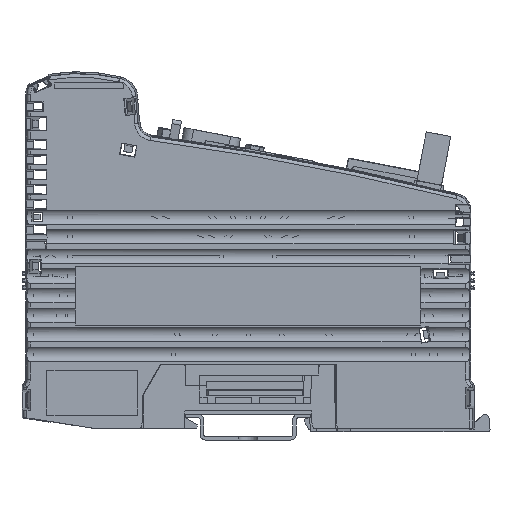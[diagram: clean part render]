
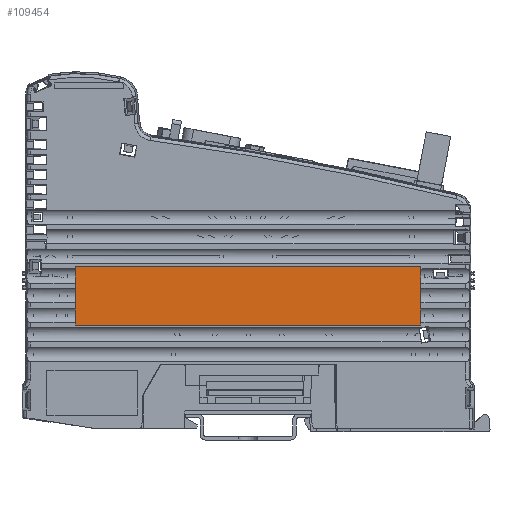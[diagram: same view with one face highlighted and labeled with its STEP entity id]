
A CAD part, left-side view. The second image highlights one B-rep face of the part: STEP entity #109454.
In plain terms, the highlighted planar face has unit normal (-1, 0, 0).
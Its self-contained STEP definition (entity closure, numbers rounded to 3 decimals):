
#8887=ORIENTED_EDGE('',*,*,#39844,.T.);
#8888=ORIENTED_EDGE('',*,*,#39843,.T.);
#8889=ORIENTED_EDGE('',*,*,#39846,.T.);
#8890=ORIENTED_EDGE('',*,*,#39838,.T.);
#8891=ORIENTED_EDGE('',*,*,#39840,.T.);
#8892=ORIENTED_EDGE('',*,*,#39841,.T.);
#8893=ORIENTED_EDGE('',*,*,#39847,.T.);
#8894=ORIENTED_EDGE('',*,*,#39848,.T.);
#8895=ORIENTED_EDGE('',*,*,#39849,.T.);
#8896=ORIENTED_EDGE('',*,*,#39845,.T.);
#39838=EDGE_CURVE('',#55596,#54730,#66661,.T.);
#39840=EDGE_CURVE('',#54730,#54737,#66663,.T.);
#39841=EDGE_CURVE('',#54737,#54740,#66664,.T.);
#39843=EDGE_CURVE('',#55593,#55597,#66666,.T.);
#39844=EDGE_CURVE('',#55594,#55593,#66667,.T.);
#39845=EDGE_CURVE('',#55595,#55594,#66668,.T.);
#39846=EDGE_CURVE('',#55597,#55596,#66669,.T.);
#39847=EDGE_CURVE('',#54740,#55598,#66670,.T.);
#39848=EDGE_CURVE('',#55598,#55599,#66671,.T.);
#39849=EDGE_CURVE('',#55599,#55595,#66672,.T.);
#54730=VERTEX_POINT('',#170163);
#54737=VERTEX_POINT('',#170268);
#54740=VERTEX_POINT('',#170375);
#55593=VERTEX_POINT('',#175228);
#55594=VERTEX_POINT('',#175232);
#55595=VERTEX_POINT('',#175236);
#55596=VERTEX_POINT('',#175241);
#55597=VERTEX_POINT('',#175249);
#55598=VERTEX_POINT('',#175258);
#55599=VERTEX_POINT('',#175260);
#66661=LINE('',#175240,#79755);
#66663=LINE('',#175244,#79757);
#66664=LINE('',#175246,#79758);
#66666=LINE('',#175250,#79760);
#66667=LINE('',#175252,#79761);
#66668=LINE('',#175254,#79762);
#66669=LINE('',#175256,#79763);
#66670=LINE('',#175257,#79764);
#66671=LINE('',#175259,#79765);
#66672=LINE('',#175261,#79766);
#79755=VECTOR('',#142902,1000.);
#79757=VECTOR('',#142906,1000.);
#79758=VECTOR('',#142909,1000.);
#79760=VECTOR('',#142913,1000.);
#79761=VECTOR('',#142916,1000.);
#79762=VECTOR('',#142919,1000.);
#79763=VECTOR('',#142922,1000.);
#79764=VECTOR('',#142923,1000.);
#79765=VECTOR('',#142924,1000.);
#79766=VECTOR('',#142925,1000.);
#91910=EDGE_LOOP('',(#8887,#8888,#8889,#8890,#8891,#8892,#8893,#8894,#8895,
#8896));
#98362=FACE_BOUND('',#91910,.T.);
#104623=PLANE('',#132218);
#109454=ADVANCED_FACE('',(#98362),#104623,.T.);
#132218=AXIS2_PLACEMENT_3D('',#175255,#142920,#142921);
#142902=DIRECTION('',(0.,0.,-1.));
#142906=DIRECTION('',(0.,0.,-1.));
#142909=DIRECTION('',(0.,0.,-1.));
#142913=DIRECTION('',(0.,0.,1.));
#142916=DIRECTION('',(0.,0.,1.));
#142919=DIRECTION('',(0.,0.,1.));
#142920=DIRECTION('',(-1.,0.,0.));
#142921=DIRECTION('',(0.,-1.,0.));
#142922=DIRECTION('',(0.,1.,0.));
#142923=DIRECTION('',(0.,0.,-1.));
#142924=DIRECTION('',(0.,-1.,0.));
#142925=DIRECTION('',(0.,0.,1.));
#170163=CARTESIAN_POINT('',(-11.5,48.483,42.8));
#170268=CARTESIAN_POINT('',(-11.5,48.483,37.3));
#170375=CARTESIAN_POINT('',(-11.5,48.483,31.8));
#175228=CARTESIAN_POINT('',(-11.5,-48.483,42.8));
#175232=CARTESIAN_POINT('',(-11.5,-48.483,37.3));
#175236=CARTESIAN_POINT('',(-11.5,-48.483,31.8));
#175240=CARTESIAN_POINT('',(-11.5,48.483,29.));
#175241=CARTESIAN_POINT('',(-11.5,48.483,45.483));
#175244=CARTESIAN_POINT('',(-11.5,48.483,29.));
#175246=CARTESIAN_POINT('',(-11.5,48.483,29.));
#175249=CARTESIAN_POINT('',(-11.5,-48.483,45.483));
#175250=CARTESIAN_POINT('',(-11.5,-48.483,29.));
#175252=CARTESIAN_POINT('',(-11.5,-48.483,29.));
#175254=CARTESIAN_POINT('',(-11.5,-48.483,29.));
#175255=CARTESIAN_POINT('',(-11.5,48.5,29.));
#175256=CARTESIAN_POINT('',(-11.5,48.5,45.483));
#175257=CARTESIAN_POINT('',(-11.5,48.483,29.));
#175258=CARTESIAN_POINT('',(-11.5,48.483,29.017));
#175259=CARTESIAN_POINT('',(-11.5,48.5,29.017));
#175260=CARTESIAN_POINT('',(-11.5,-48.483,29.017));
#175261=CARTESIAN_POINT('',(-11.5,-48.483,29.));
